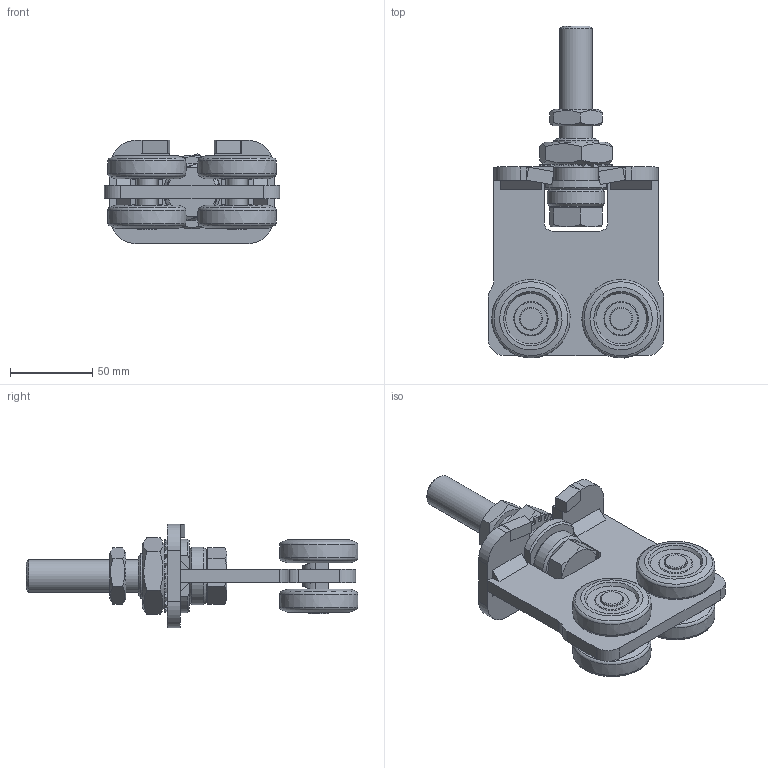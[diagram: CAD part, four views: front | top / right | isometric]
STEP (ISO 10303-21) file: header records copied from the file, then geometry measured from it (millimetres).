
FILE_DESCRIPTION(/* description */ ('Doppelrolle Horizontal Nr.3'),/* implementation_level */ '2;1');
FILE_NAME(/* name */ 'Q:\sge-ma\Produktmanagement-STB\STB\Workspace\TraceParts\Doppelrolle horizontrale drehbar\010336462.stp',/* time_stamp */ '2018-02-21T15:50:49+01:00',/* author */ ('avschreier'),/* organization */ (''),/* preprocessor_version */ 'ST-DEVELOPER v16.1',/* originating_system */ 'Autodesk Inventor 2016',/* authorisation */ '');
FILE_SCHEMA (('CONFIG_CONTROL_DESIGN'));
Length unit declared in the file: millimetre
Products named in the file (13): 010336462_Schweißnähte; 000302072; 000302071; 000303237; 000304012; 336290030; 000302012; 000302011; DIN_EN_ISO_4017-M20x110_en; DIN_EN_ISO_4035-M27_en; DIN_EN_ISO_4035-M20_en; DIN_6798-A_28_en; 010336462
Assembly tree (19 placements, depth 2):
  010336462
    010336462_Schweißnähte
    000302072
    000302071
    000303237  x4
    000304012  x2
    336290030  x4
    000302012
    000302011
    DIN_EN_ISO_4017-M20x110_en
    DIN_EN_ISO_4035-M27_en
    DIN_EN_ISO_4035-M20_en
    DIN_6798-A_28_en
Bounding box: 107 x 202.4 x 63 mm (x, y, z)
Volume: 289258.6 mm3; surface area: 97348.9 mm2
Topology: 22 solids, 22 shells, 538 faces, 1341 edges, 866 vertices
Faces by surface type: plane 288, cylinder 145, cone 61, bspline 36, torus 8
Full cylindrical faces by diameter (mm): 12 x6, 14 x2, 17.294 x1, 18.647 x1, 20 x2, 20.5 x1, 23.752 x1, 27 x1, 27.7 x1, 28 x1, 35 x1
Entity records: 12201 total; most frequent: CARTESIAN_POINT 3085, DIRECTION 1918, ORIENTED_EDGE 1772, EDGE_CURVE 886, AXIS2_PLACEMENT_3D 702, VERTEX_POINT 601, LINE 514, VECTOR 514
